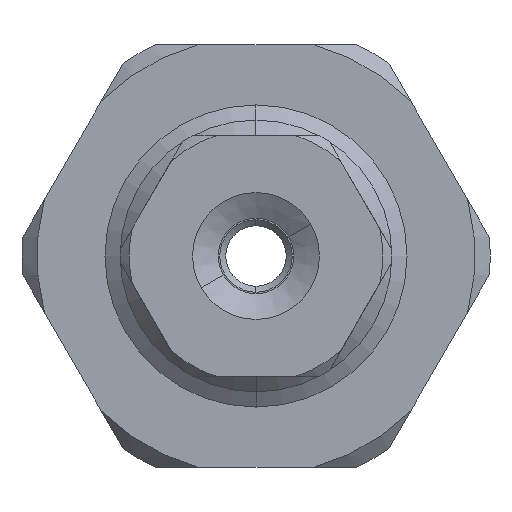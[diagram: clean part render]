
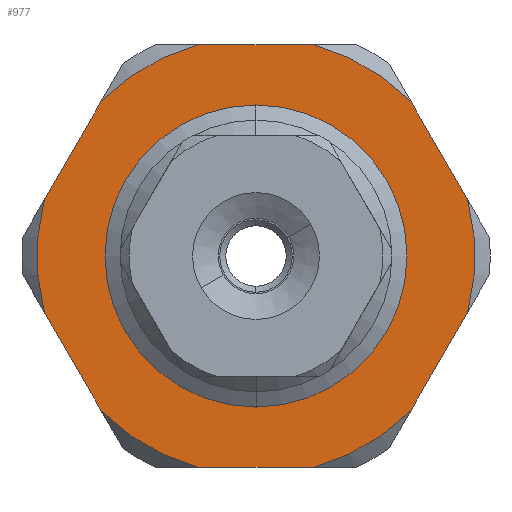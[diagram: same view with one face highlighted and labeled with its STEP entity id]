
A CAD part, front view. The second image highlights one B-rep face of the part: STEP entity #977.
In plain terms, the highlighted planar face has unit normal (0, -1, 0).
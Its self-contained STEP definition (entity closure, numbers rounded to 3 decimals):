
#19 = AXIS2_PLACEMENT_3D ( 'NONE', #10091, #1145, #11588 ) ;
#56 = DIRECTION ( 'NONE',  ( -0.5, 0., 0.866 ) ) ;
#67 = EDGE_LOOP ( 'NONE', ( #3711, #4066, #4573, #8242, #6174, #5577, #1677, #6163, #11725, #347, #12280, #1490 ) ) ;
#87 = VERTEX_POINT ( 'NONE', #17476 ) ;
#347 = ORIENTED_EDGE ( 'NONE', *, *, #4635, .T. ) ;
#383 = DIRECTION ( 'NONE',  ( 0., -1., 0. ) ) ;
#516 = DIRECTION ( 'NONE',  ( -1., 0., 0. ) ) ;
#546 = VERTEX_POINT ( 'NONE', #15135 ) ;
#765 = CIRCLE ( 'NONE', #7882, 7.25 ) ;
#977 = ADVANCED_FACE ( 'NONE', ( #10496, #10046 ), #7906, .F. ) ;
#1076 = LINE ( 'NONE', #15833, #12007 ) ;
#1145 = DIRECTION ( 'NONE',  ( 0., 1., 0. ) ) ;
#1251 = EDGE_CURVE ( 'NONE', #11465, #546, #7673, .T. ) ;
#1294 = ORIENTED_EDGE ( 'NONE', *, *, #1634, .T. ) ;
#1490 = ORIENTED_EDGE ( 'NONE', *, *, #8794, .T. ) ;
#1634 = EDGE_CURVE ( 'NONE', #19010, #4018, #4134, .T. ) ;
#1677 = ORIENTED_EDGE ( 'NONE', *, *, #18802, .T. ) ;
#1884 = DIRECTION ( 'NONE',  ( 0., -1., 0. ) ) ;
#2030 = DIRECTION ( 'NONE',  ( 0., 0., 1. ) ) ;
#2180 = LINE ( 'NONE', #18325, #9657 ) ;
#2378 = EDGE_CURVE ( 'NONE', #17193, #11465, #7560, .T. ) ;
#2609 = EDGE_CURVE ( 'NONE', #9301, #10172, #2180, .T. ) ;
#2787 = AXIS2_PLACEMENT_3D ( 'NONE', #14985, #6068, #16495 ) ;
#2880 = VECTOR ( 'NONE', #4410, 1000. ) ;
#3183 = CIRCLE ( 'NONE', #9316, 3.5 ) ;
#3411 = DIRECTION ( 'NONE',  ( 0.5, 0., 0.866 ) ) ;
#3711 = ORIENTED_EDGE ( 'NONE', *, *, #15415, .T. ) ;
#3887 = CARTESIAN_POINT ( 'NONE',  ( -8.127, -26.71, 51.411 ) ) ;
#4018 = VERTEX_POINT ( 'NONE', #15771 ) ;
#4066 = ORIENTED_EDGE ( 'NONE', *, *, #16299, .T. ) ;
#4134 = CIRCLE ( 'NONE', #19, 3.5 ) ;
#4410 = DIRECTION ( 'NONE',  ( 0.5, 0., -0.866 ) ) ;
#4427 = CIRCLE ( 'NONE', #15911, 7.25 ) ;
#4573 = ORIENTED_EDGE ( 'NONE', *, *, #8494, .T. ) ;
#4579 = CARTESIAN_POINT ( 'NONE',  ( -5.922, -26.71, 51.5 ) ) ;
#4635 = EDGE_CURVE ( 'NONE', #10172, #8991, #4427, .T. ) ;
#4758 = CARTESIAN_POINT ( 'NONE',  ( -4.034, -26.71, 44.5 ) ) ;
#4794 = CARTESIAN_POINT ( 'NONE',  ( 1.084, -26.71, 49.635 ) ) ;
#5040 = CARTESIAN_POINT ( 'NONE',  ( 0.058, -26.71, 37.589 ) ) ;
#5098 = CARTESIAN_POINT ( 'NONE',  ( -5.922, -26.71, 37.5 ) ) ;
#5130 = AXIS2_PLACEMENT_3D ( 'NONE', #4758, #15175, #6246 ) ;
#5486 = CARTESIAN_POINT ( 'NONE',  ( 1.084, -26.71, 39.365 ) ) ;
#5577 = ORIENTED_EDGE ( 'NONE', *, *, #13478, .T. ) ;
#5725 = CARTESIAN_POINT ( 'NONE',  ( -9.153, -26.71, 49.635 ) ) ;
#6068 = DIRECTION ( 'NONE',  ( 0., -1., 0. ) ) ;
#6163 = ORIENTED_EDGE ( 'NONE', *, *, #10705, .T. ) ;
#6174 = ORIENTED_EDGE ( 'NONE', *, *, #1251, .T. ) ;
#6246 = DIRECTION ( 'NONE',  ( 0., 0., 1. ) ) ;
#6599 = DIRECTION ( 'NONE',  ( 0., -1., 0. ) ) ;
#6719 = VECTOR ( 'NONE', #6813, 1000. ) ;
#6735 = CARTESIAN_POINT ( 'NONE',  ( -2.147, -26.71, 51.5 ) ) ;
#6813 = DIRECTION ( 'NONE',  ( -0.5, 0., -0.866 ) ) ;
#6834 = CIRCLE ( 'NONE', #12975, 7.25 ) ;
#7560 = CIRCLE ( 'NONE', #5130, 7.25 ) ;
#7585 = CARTESIAN_POINT ( 'NONE',  ( -9.153, -26.71, 39.365 ) ) ;
#7621 = CARTESIAN_POINT ( 'NONE',  ( -4.034, -26.71, 44.5 ) ) ;
#7673 = LINE ( 'NONE', #5040, #11648 ) ;
#7882 = AXIS2_PLACEMENT_3D ( 'NONE', #9309, #383, #10804 ) ;
#7906 = PLANE ( 'NONE',  #11876 ) ;
#7975 = DIRECTION ( 'NONE',  ( 0., 1., 0. ) ) ;
#8242 = ORIENTED_EDGE ( 'NONE', *, *, #2378, .T. ) ;
#8494 = EDGE_CURVE ( 'NONE', #18424, #17193, #1076, .T. ) ;
#8794 = EDGE_CURVE ( 'NONE', #87, #12240, #12687, .T. ) ;
#8832 = DIRECTION ( 'NONE',  ( 0., -1., 0. ) ) ;
#8991 = VERTEX_POINT ( 'NONE', #5725 ) ;
#9112 = DIRECTION ( 'NONE',  ( 0., 0., 1. ) ) ;
#9301 = VERTEX_POINT ( 'NONE', #6735 ) ;
#9309 = CARTESIAN_POINT ( 'NONE',  ( -4.034, -26.71, 44.5 ) ) ;
#9316 = AXIS2_PLACEMENT_3D ( 'NONE', #7621, #18016, #9112 ) ;
#9349 = CIRCLE ( 'NONE', #10648, 7.25 ) ;
#9657 = VECTOR ( 'NONE', #516, 1000. ) ;
#10046 = FACE_BOUND ( 'NONE', #11041, .T. ) ;
#10091 = CARTESIAN_POINT ( 'NONE',  ( -4.034, -26.71, 44.5 ) ) ;
#10172 = VERTEX_POINT ( 'NONE', #4579 ) ;
#10300 = LINE ( 'NONE', #10494, #14248 ) ;
#10494 = CARTESIAN_POINT ( 'NONE',  ( 3.997, -26.71, 44.589 ) ) ;
#10496 = FACE_OUTER_BOUND ( 'NONE', #67, .T. ) ;
#10648 = AXIS2_PLACEMENT_3D ( 'NONE', #10818, #1884, #12303 ) ;
#10705 = EDGE_CURVE ( 'NONE', #17214, #9301, #765, .T. ) ;
#10804 = DIRECTION ( 'NONE',  ( 0., 0., 1. ) ) ;
#10818 = CARTESIAN_POINT ( 'NONE',  ( -4.034, -26.71, 44.5 ) ) ;
#11041 = EDGE_LOOP ( 'NONE', ( #1294, #17674 ) ) ;
#11465 = VERTEX_POINT ( 'NONE', #5486 ) ;
#11588 = DIRECTION ( 'NONE',  ( 0., 0., 1. ) ) ;
#11648 = VECTOR ( 'NONE', #3411, 1000. ) ;
#11725 = ORIENTED_EDGE ( 'NONE', *, *, #2609, .T. ) ;
#11876 = AXIS2_PLACEMENT_3D ( 'NONE', #16859, #7975, #2030 ) ;
#12007 = VECTOR ( 'NONE', #18726, 1000. ) ;
#12240 = VERTEX_POINT ( 'NONE', #16938 ) ;
#12280 = ORIENTED_EDGE ( 'NONE', *, *, #17887, .T. ) ;
#12303 = DIRECTION ( 'NONE',  ( 0., 0., 1. ) ) ;
#12687 = CIRCLE ( 'NONE', #2787, 7.25 ) ;
#12975 = AXIS2_PLACEMENT_3D ( 'NONE', #15530, #6599, #17007 ) ;
#13224 = VERTEX_POINT ( 'NONE', #14663 ) ;
#13327 = CARTESIAN_POINT ( 'NONE',  ( -12.066, -26.71, 44.411 ) ) ;
#13478 = EDGE_CURVE ( 'NONE', #546, #13224, #9349, .T. ) ;
#14248 = VECTOR ( 'NONE', #56, 1000. ) ;
#14621 = EDGE_CURVE ( 'NONE', #4018, #19010, #3183, .T. ) ;
#14663 = CARTESIAN_POINT ( 'NONE',  ( 2.972, -26.71, 46.365 ) ) ;
#14985 = CARTESIAN_POINT ( 'NONE',  ( -4.034, -26.71, 44.5 ) ) ;
#15135 = CARTESIAN_POINT ( 'NONE',  ( 2.972, -26.71, 42.635 ) ) ;
#15175 = DIRECTION ( 'NONE',  ( 0., -1., 0. ) ) ;
#15415 = EDGE_CURVE ( 'NONE', #12240, #16125, #18714, .T. ) ;
#15530 = CARTESIAN_POINT ( 'NONE',  ( -4.034, -26.71, 44.5 ) ) ;
#15771 = CARTESIAN_POINT ( 'NONE',  ( -4.034, -26.71, 41. ) ) ;
#15833 = CARTESIAN_POINT ( 'NONE',  ( -7.973, -26.71, 37.5 ) ) ;
#15911 = AXIS2_PLACEMENT_3D ( 'NONE', #17724, #8832, #19210 ) ;
#16125 = VERTEX_POINT ( 'NONE', #7585 ) ;
#16299 = EDGE_CURVE ( 'NONE', #16125, #18424, #6834, .T. ) ;
#16495 = DIRECTION ( 'NONE',  ( 0., 0., 1. ) ) ;
#16507 = CARTESIAN_POINT ( 'NONE',  ( -2.147, -26.71, 37.5 ) ) ;
#16848 = CARTESIAN_POINT ( 'NONE',  ( -4.034, -26.71, 48. ) ) ;
#16859 = CARTESIAN_POINT ( 'NONE',  ( -4.034, -26.71, 44.5 ) ) ;
#16938 = CARTESIAN_POINT ( 'NONE',  ( -11.04, -26.71, 42.635 ) ) ;
#17007 = DIRECTION ( 'NONE',  ( 0., 0., 1. ) ) ;
#17193 = VERTEX_POINT ( 'NONE', #16507 ) ;
#17214 = VERTEX_POINT ( 'NONE', #4794 ) ;
#17476 = CARTESIAN_POINT ( 'NONE',  ( -11.04, -26.71, 46.365 ) ) ;
#17674 = ORIENTED_EDGE ( 'NONE', *, *, #14621, .T. ) ;
#17724 = CARTESIAN_POINT ( 'NONE',  ( -4.034, -26.71, 44.5 ) ) ;
#17887 = EDGE_CURVE ( 'NONE', #8991, #87, #18564, .T. ) ;
#18016 = DIRECTION ( 'NONE',  ( 0., 1., 0. ) ) ;
#18325 = CARTESIAN_POINT ( 'NONE',  ( -0.095, -26.71, 51.5 ) ) ;
#18424 = VERTEX_POINT ( 'NONE', #5098 ) ;
#18564 = LINE ( 'NONE', #3887, #6719 ) ;
#18714 = LINE ( 'NONE', #13327, #2880 ) ;
#18726 = DIRECTION ( 'NONE',  ( 1., 0., 0. ) ) ;
#18802 = EDGE_CURVE ( 'NONE', #13224, #17214, #10300, .T. ) ;
#19010 = VERTEX_POINT ( 'NONE', #16848 ) ;
#19210 = DIRECTION ( 'NONE',  ( 0., 0., 1. ) ) ;
